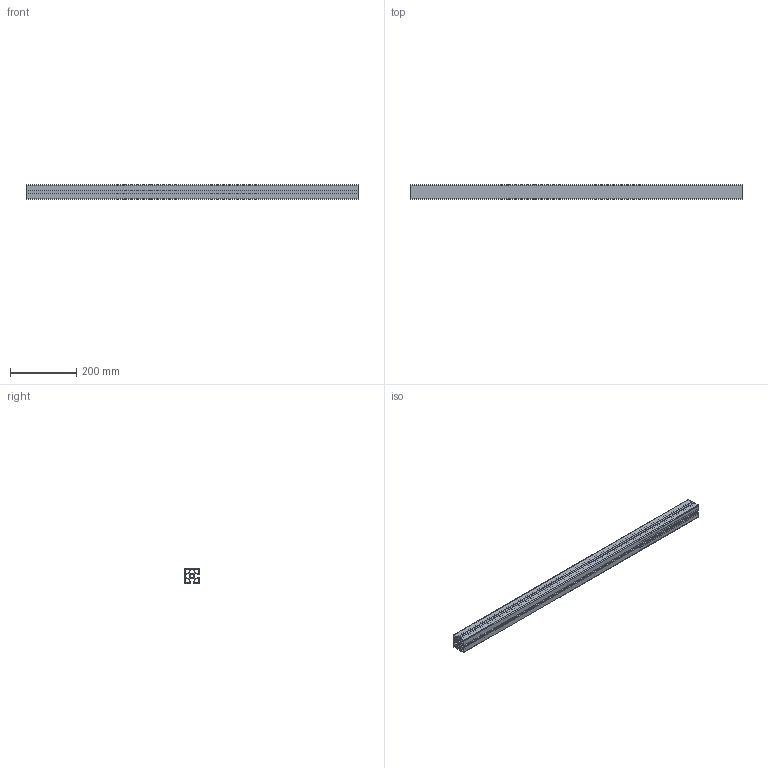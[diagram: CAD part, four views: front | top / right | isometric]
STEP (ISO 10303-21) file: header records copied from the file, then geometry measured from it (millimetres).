
FILE_DESCRIPTION (( 'STEP AP214' ), '1' );
FILE_NAME ('1.0106 45X45 L 2SS 6m 1000mm.STEP', '2025-12-03T12:28:24', ( '' ), ( '' ), 'SwSTEP 2.0', 'SolidWorks 2025', '' );
FILE_SCHEMA (( 'AUTOMOTIVE_DESIGN' ));
Length unit declared in the file: millimetre
Products named in the file (1): 1.0106 45X45 L 2SS 6m 1000mm
Bounding box: 1000 x 45 x 45 mm (x, y, z)
Volume: 719033.2 mm3; surface area: 580989.5 mm2
Topology: 1 solids, 1 shells, 147 faces, 435 edges, 290 vertices
Faces by surface type: plane 78, cylinder 69
Entity records: 6615 total; most frequent: CARTESIAN_POINT 873, ORIENTED_EDGE 870, DIRECTION 869, EDGE_CURVE 435, LINE 297, VECTOR 297, VERTEX_POINT 290, AXIS2_PLACEMENT_3D 286
